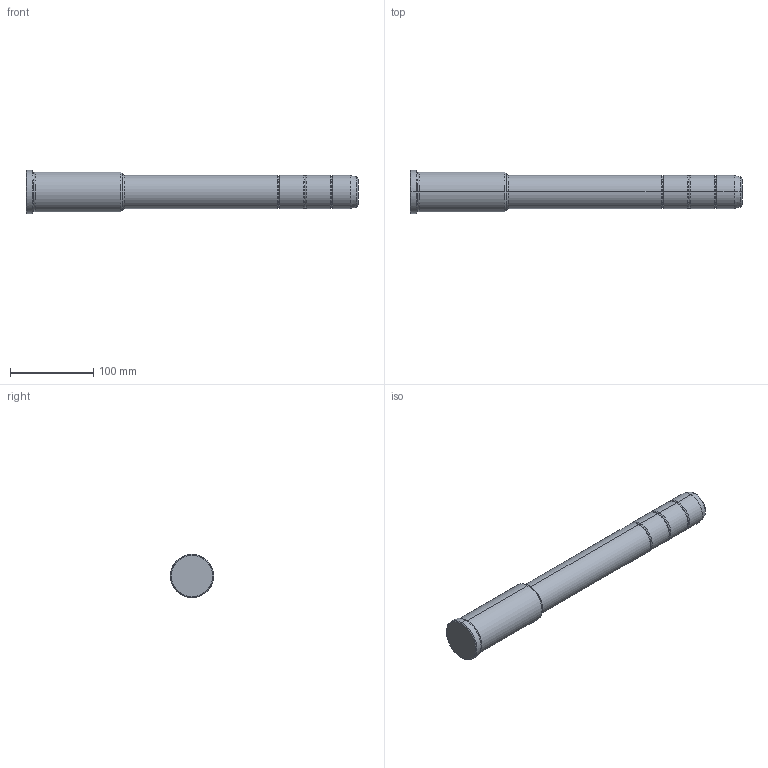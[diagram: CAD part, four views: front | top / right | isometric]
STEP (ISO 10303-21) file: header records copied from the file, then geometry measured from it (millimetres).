
FILE_DESCRIPTION(('CATIA V5 STEP Exchange'),'2;1');
FILE_NAME('C:\Users\Utente\Desktop\IO LAVORO\3D X SITO CF\X SITO\PLASTICA\351\351-40X116X400.stp','2021-11-03T19:16:32+00:00',('none'),('none'),'CATIA Version 5 Release 20 GA (IN-10)','CATIA V5 STEP AP203','none');
FILE_SCHEMA(('CONFIG_CONTROL_DESIGN'));
Length unit declared in the file: millimetre
Products named in the file (1): 351-40X116X400
Bounding box: 400 x 52 x 52 mm (x, y, z)
Volume: 566856.3 mm3; surface area: 57064.4 mm2
Topology: 1 solids, 1 shells, 42 faces, 118 edges, 80 vertices
Faces by surface type: torus 20, cylinder 12, cone 6, plane 4
Entity records: 1472 total; most frequent: CARTESIAN_POINT 353, ORIENTED_EDGE 236, DIRECTION 194, AXIS2_PLACEMENT_3D 135, EDGE_CURVE 118, CIRCLE 92, VERTEX_POINT 80, EDGE_LOOP 44
